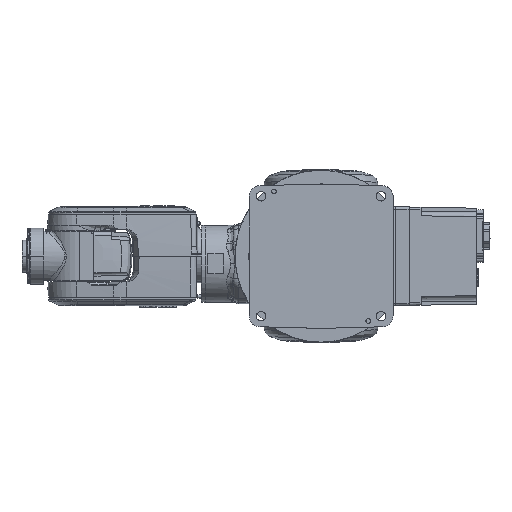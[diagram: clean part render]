
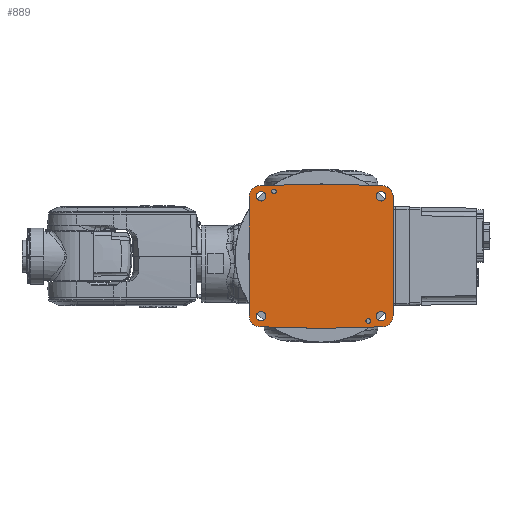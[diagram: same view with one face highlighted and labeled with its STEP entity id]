
A CAD part, front view. The second image highlights one B-rep face of the part: STEP entity #889.
In plain terms, the highlighted planar face has unit normal (0, -1, 0).
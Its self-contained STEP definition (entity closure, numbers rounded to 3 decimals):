
#889=ADVANCED_FACE('NONE',(#4801,#4802,#4803,#4804,#4805,#4806,#4807),#4808,.F.);
#4801=FACE_OUTER_BOUND('',#14278,.T.);
#4802=FACE_BOUND('',#14279,.T.);
#4803=FACE_BOUND('',#14280,.T.);
#4804=FACE_BOUND('',#14281,.T.);
#4805=FACE_BOUND('',#14282,.T.);
#4806=FACE_BOUND('',#14283,.T.);
#4807=FACE_BOUND('',#14284,.T.);
#4808=PLANE('',#14285);
#14278=EDGE_LOOP('',(#53822,#53823,#53824,#53825,#53826,#53827,#53828,#53829,#53830,#53831));
#14279=EDGE_LOOP('',(#53832,#53833));
#14280=EDGE_LOOP('',(#53834,#53835));
#14281=EDGE_LOOP('',(#53836,#53837));
#14282=EDGE_LOOP('',(#53838,#53839));
#14283=EDGE_LOOP('',(#53840,#53841));
#14284=EDGE_LOOP('',(#53842,#53843));
#14285=AXIS2_PLACEMENT_3D('',#53844,#53845,#53846);
#53822=ORIENTED_EDGE('',*,*,#80861,.F.);
#53823=ORIENTED_EDGE('',*,*,#80862,.F.);
#53824=ORIENTED_EDGE('',*,*,#80859,.F.);
#53825=ORIENTED_EDGE('',*,*,#80800,.F.);
#53826=ORIENTED_EDGE('',*,*,#80863,.F.);
#53827=ORIENTED_EDGE('',*,*,#80803,.T.);
#53828=ORIENTED_EDGE('',*,*,#80864,.F.);
#53829=ORIENTED_EDGE('',*,*,#80808,.F.);
#53830=ORIENTED_EDGE('',*,*,#80865,.F.);
#53831=ORIENTED_EDGE('',*,*,#80866,.F.);
#53832=ORIENTED_EDGE('',*,*,#80693,.T.);
#53833=ORIENTED_EDGE('',*,*,#80649,.T.);
#53834=ORIENTED_EDGE('',*,*,#80619,.F.);
#53835=ORIENTED_EDGE('',*,*,#80712,.F.);
#53836=ORIENTED_EDGE('',*,*,#80615,.F.);
#53837=ORIENTED_EDGE('',*,*,#80714,.F.);
#53838=ORIENTED_EDGE('',*,*,#80611,.F.);
#53839=ORIENTED_EDGE('',*,*,#80716,.F.);
#53840=ORIENTED_EDGE('',*,*,#80607,.F.);
#53841=ORIENTED_EDGE('',*,*,#80718,.F.);
#53842=ORIENTED_EDGE('',*,*,#80633,.F.);
#53843=ORIENTED_EDGE('',*,*,#80703,.F.);
#53844=CARTESIAN_POINT('',(0.0,0.0,0.0));
#53845=DIRECTION('',(0.0,1.0,0.0));
#53846=DIRECTION('',(-1.0,0.0,0.0));
#80607=EDGE_CURVE('NONE',#90245,#90248,#90249,.T.);
#80611=EDGE_CURVE('NONE',#90253,#90256,#90257,.T.);
#80615=EDGE_CURVE('NONE',#90261,#90264,#90265,.T.);
#80619=EDGE_CURVE('NONE',#90269,#90272,#90273,.T.);
#80633=EDGE_CURVE('NONE',#90297,#90300,#90301,.T.);
#80649=EDGE_CURVE('NONE',#90332,#90329,#90333,.T.);
#80693=EDGE_CURVE('NONE',#90329,#90332,#90414,.T.);
#80703=EDGE_CURVE('NONE',#90300,#90297,#90428,.T.);
#80712=EDGE_CURVE('NONE',#90272,#90269,#90440,.T.);
#80714=EDGE_CURVE('NONE',#90264,#90261,#90442,.T.);
#80716=EDGE_CURVE('NONE',#90256,#90253,#90444,.T.);
#80718=EDGE_CURVE('NONE',#90248,#90245,#90446,.T.);
#80800=EDGE_CURVE('NONE',#90570,#90572,#90573,.T.);
#80803=EDGE_CURVE('NONE',#90576,#90577,#90578,.T.);
#80808=EDGE_CURVE('NONE',#90582,#90584,#90585,.T.);
#80859=EDGE_CURVE('NONE',#90572,#90663,#90664,.T.);
#80861=EDGE_CURVE('NONE',#90666,#90667,#90668,.T.);
#80862=EDGE_CURVE('NONE',#90663,#90666,#90669,.T.);
#80863=EDGE_CURVE('NONE',#90576,#90570,#90670,.T.);
#80864=EDGE_CURVE('NONE',#90584,#90577,#90671,.T.);
#80865=EDGE_CURVE('NONE',#90672,#90582,#90673,.T.);
#80866=EDGE_CURVE('NONE',#90667,#90672,#90674,.T.);
#90245=VERTEX_POINT('NONE',#105707);
#90248=VERTEX_POINT('',#105711);
#90249=CIRCLE('',#105712,6.0);
#90253=VERTEX_POINT('NONE',#105717);
#90256=VERTEX_POINT('',#105721);
#90257=CIRCLE('',#105722,6.0);
#90261=VERTEX_POINT('NONE',#105727);
#90264=VERTEX_POINT('',#105731);
#90265=CIRCLE('',#105732,6.0);
#90269=VERTEX_POINT('NONE',#105737);
#90272=VERTEX_POINT('',#105741);
#90273=CIRCLE('',#105742,6.);
#90297=VERTEX_POINT('NONE',#105795);
#90300=VERTEX_POINT('',#105799);
#90301=CIRCLE('',#105800,3.0);
#90329=VERTEX_POINT('NONE',#105885);
#90332=VERTEX_POINT('',#105889);
#90333=CIRCLE('',#105890,3.0);
#90414=CIRCLE('',#106627,3.0);
#90428=CIRCLE('',#106691,3.0);
#90440=CIRCLE('',#106728,6.);
#90442=CIRCLE('',#106730,6.0);
#90444=CIRCLE('',#106732,6.0);
#90446=CIRCLE('',#106734,6.0);
#90570=VERTEX_POINT('NONE',#107589);
#90572=VERTEX_POINT('NONE',#107592);
#90573=LINE('',#107593,#107594);
#90576=VERTEX_POINT('NONE',#107607);
#90577=VERTEX_POINT('NONE',#107608);
#90578=LINE('',#107609,#107610);
#90582=VERTEX_POINT('NONE',#107625);
#90584=VERTEX_POINT('NONE',#107628);
#90585=LINE('',#107629,#107630);
#90663=VERTEX_POINT('NONE',#108056);
#90664=LINE('',#108057,#108058);
#90666=VERTEX_POINT('NONE',#108061);
#90667=VERTEX_POINT('NONE',#108062);
#90668=LINE('',#108063,#108064);
#90669=CIRCLE('',#108065,14.0);
#90670=CIRCLE('',#108066,14.0);
#90671=CIRCLE('',#108067,14.0);
#90672=VERTEX_POINT('NONE',#108068);
#90673=LINE('',#108069,#108070);
#90674=CIRCLE('',#108071,14.0);
#105707=CARTESIAN_POINT('',(75.0,0.0,81.0));
#105711=CARTESIAN_POINT('',(75.0,0.0,69.0));
#105712=AXIS2_PLACEMENT_3D('',#157978,#157979,#157980);
#105717=CARTESIAN_POINT('',(75.0,0.0,-69.0));
#105721=CARTESIAN_POINT('',(75.0,0.0,-81.0));
#105722=AXIS2_PLACEMENT_3D('',#157986,#157987,#157988);
#105727=CARTESIAN_POINT('',(-75.0,0.0,-69.0));
#105731=CARTESIAN_POINT('',(-75.0,0.0,-81.0));
#105732=AXIS2_PLACEMENT_3D('',#157994,#157995,#157996);
#105737=CARTESIAN_POINT('',(-75.0,0.0,81.0));
#105741=CARTESIAN_POINT('',(-75.0,0.0,69.0));
#105742=AXIS2_PLACEMENT_3D('',#158002,#158003,#158004);
#105795=CARTESIAN_POINT('',(59.0,0.0,-78.0));
#105799=CARTESIAN_POINT('',(59.0,0.0,-84.0));
#105800=AXIS2_PLACEMENT_3D('',#158023,#158024,#158025);
#105885=CARTESIAN_POINT('',(-59.0,0.0,84.0));
#105889=CARTESIAN_POINT('',(-59.0,0.0,78.0));
#105890=AXIS2_PLACEMENT_3D('',#158038,#158039,#158040);
#106627=AXIS2_PLACEMENT_3D('',#158062,#158063,#158064);
#106691=AXIS2_PLACEMENT_3D('',#158071,#158072,#158073);
#106728=AXIS2_PLACEMENT_3D('',#158086,#158087,#158088);
#106730=AXIS2_PLACEMENT_3D('',#158092,#158093,#158094);
#106732=AXIS2_PLACEMENT_3D('',#158098,#158099,#158100);
#106734=AXIS2_PLACEMENT_3D('',#158104,#158105,#158106);
#107589=CARTESIAN_POINT('',(-76.366,0.0,88.262));
#107592=CARTESIAN_POINT('',(0.,0.0,90.262));
#107593=CARTESIAN_POINT('',(-10.0,0.0,90.0));
#107594=VECTOR('',#158208,1000.0);
#107607=CARTESIAN_POINT('',(-90.0,0.0,74.267));
#107608=CARTESIAN_POINT('',(-90.0,0.0,-74.267));
#107609=CARTESIAN_POINT('',(-90.0,0.0,-90.0));
#107610=VECTOR('',#158210,1000.0);
#107625=CARTESIAN_POINT('',(0.,0.0,-90.262));
#107628=CARTESIAN_POINT('',(-76.366,0.0,-88.262));
#107629=CARTESIAN_POINT('',(-10.0,0.0,-90.0));
#107630=VECTOR('',#158214,1000.0);
#108056=CARTESIAN_POINT('',(76.366,0.0,88.262));
#108057=CARTESIAN_POINT('',(10.0,0.0,90.0));
#108058=VECTOR('',#158270,1000.0);
#108061=CARTESIAN_POINT('',(90.0,0.0,74.267));
#108062=CARTESIAN_POINT('',(90.0,0.0,-74.267));
#108063=CARTESIAN_POINT('',(90.0,0.0,0.0));
#108064=VECTOR('',#158272,1000.0);
#108065=AXIS2_PLACEMENT_3D('',#158273,#158274,#158275);
#108066=AXIS2_PLACEMENT_3D('',#158276,#158277,#158278);
#108067=AXIS2_PLACEMENT_3D('',#158279,#158280,#158281);
#108068=CARTESIAN_POINT('',(76.366,0.0,-88.262));
#108069=CARTESIAN_POINT('',(76.366,0.0,-88.262));
#108070=VECTOR('',#158282,1000.0);
#108071=AXIS2_PLACEMENT_3D('',#158283,#158284,#158285);
#157978=CARTESIAN_POINT('',(75.0,0.0,75.0));
#157979=DIRECTION('',(0.0,-1.0,0.0));
#157980=DIRECTION('',(0.0,0.0,1.0));
#157986=CARTESIAN_POINT('',(75.0,0.0,-75.0));
#157987=DIRECTION('',(0.0,-1.0,0.0));
#157988=DIRECTION('',(0.0,0.0,1.0));
#157994=CARTESIAN_POINT('',(-75.0,0.0,-75.0));
#157995=DIRECTION('',(0.0,-1.0,0.0));
#157996=DIRECTION('',(0.0,0.0,1.0));
#158002=CARTESIAN_POINT('',(-75.0,0.0,75.0));
#158003=DIRECTION('',(0.0,-1.0,0.0));
#158004=DIRECTION('',(0.0,0.0,1.0));
#158023=CARTESIAN_POINT('',(59.0,0.0,-81.0));
#158024=DIRECTION('',(0.0,-1.0,0.0));
#158025=DIRECTION('',(0.0,0.0,1.0));
#158038=CARTESIAN_POINT('',(-59.0,0.0,81.0));
#158039=DIRECTION('',(0.0,1.0,0.0));
#158040=DIRECTION('',(0.0,0.0,1.0));
#158062=CARTESIAN_POINT('',(-59.0,0.0,81.0));
#158063=DIRECTION('',(0.0,1.0,0.0));
#158064=DIRECTION('',(0.0,0.0,1.0));
#158071=CARTESIAN_POINT('',(59.0,0.0,-81.0));
#158072=DIRECTION('',(0.0,-1.0,0.0));
#158073=DIRECTION('',(0.0,0.0,1.0));
#158086=CARTESIAN_POINT('',(-75.0,0.0,75.0));
#158087=DIRECTION('',(0.0,-1.0,0.0));
#158088=DIRECTION('',(0.0,0.0,1.0));
#158092=CARTESIAN_POINT('',(-75.0,0.0,-75.0));
#158093=DIRECTION('',(0.0,-1.0,0.0));
#158094=DIRECTION('',(0.0,0.0,1.0));
#158098=CARTESIAN_POINT('',(75.0,0.0,-75.0));
#158099=DIRECTION('',(0.0,-1.0,0.0));
#158100=DIRECTION('',(0.0,0.0,1.0));
#158104=CARTESIAN_POINT('',(75.0,0.0,75.0));
#158105=DIRECTION('',(0.0,-1.0,0.0));
#158106=DIRECTION('',(0.0,0.0,1.0));
#158208=DIRECTION('',(1.,0.0,0.026));
#158210=DIRECTION('',(0.,0.0,-1.0));
#158214=DIRECTION('',(-1.,0.0,0.026));
#158270=DIRECTION('',(1.,0.0,-0.026));
#158272=DIRECTION('',(0.0,0.0,-1.0));
#158273=CARTESIAN_POINT('',(76.0,0.0,74.267));
#158274=DIRECTION('',(0.0,1.0,0.0));
#158275=DIRECTION('',(0.0,0.0,-1.0));
#158276=CARTESIAN_POINT('',(-76.0,0.0,74.267));
#158277=DIRECTION('',(0.0,1.0,0.0));
#158278=DIRECTION('',(0.0,0.0,-1.0));
#158279=CARTESIAN_POINT('',(-76.0,0.0,-74.267));
#158280=DIRECTION('',(0.0,1.0,0.0));
#158281=DIRECTION('',(0.0,0.0,-1.0));
#158282=DIRECTION('',(-1.,0.0,-0.026));
#158283=CARTESIAN_POINT('',(76.0,0.0,-74.267));
#158284=DIRECTION('',(0.0,1.0,0.0));
#158285=DIRECTION('',(0.0,0.0,-1.0));
